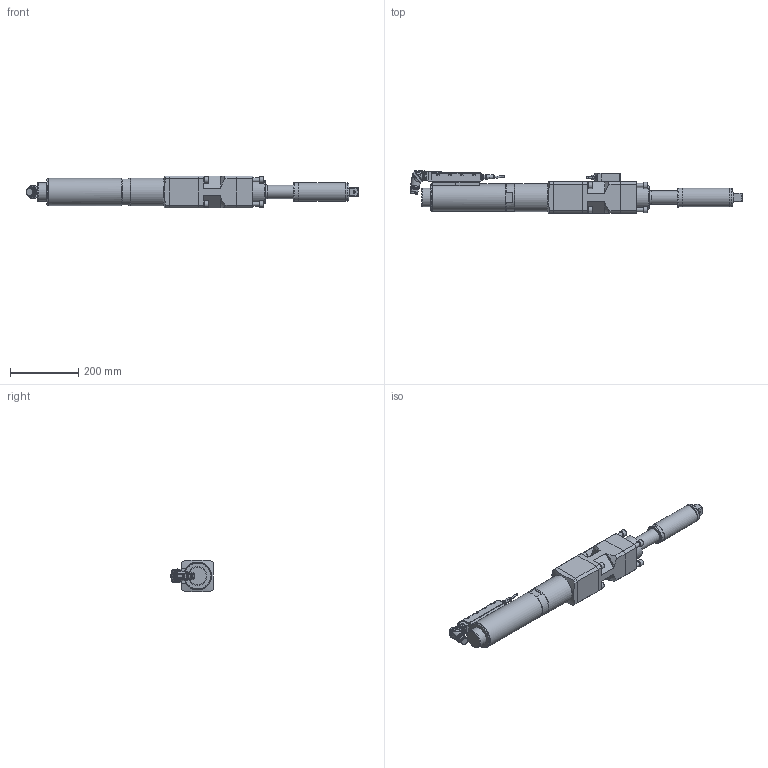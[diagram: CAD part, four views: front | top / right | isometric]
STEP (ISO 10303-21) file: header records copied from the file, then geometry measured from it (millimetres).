
FILE_DESCRIPTION (( 'STEP AP214' ), '1' );
FILE_NAME ('70082452_ESX5130DAX1300AZX580.STEP', '2016-11-14T11:09:37', ( 'admin' ), ( '' ), 'SwSTEP 2.0', 'SolidWorks 2014', '' );
FILE_SCHEMA (( 'AUTOMOTIVE_DESIGN' ));
Length unit declared in the file: millimetre
Products named in the file (11): 70082374; 70082347; 70082313_ESX5130_Standard_Winkel; 70082293_2; 70057493_Standard_winkel; 70057493_4; 70057493_3; 70057493_2; 70082313; 70082452_ESX5130DAX1300AZX580; 7002956_3
Assembly tree (10 placements, depth 4):
  70082452_ESX5130DAX1300AZX580
    70082313_ESX5130_Standard_Winkel
      70082313
      70057493_Standard_winkel
        70057493_2
        70057493_3
        70057493_4
      70082293_2
    70082347
    70082374
    7002956_3
Bounding box: 973.96 x 124.64 x 92 mm (x, y, z)
Volume: 4697437.2 mm3; surface area: 435024.1 mm2
Topology: 12 solids, 12 shells, 2299 faces, 5998 edges, 3892 vertices
Faces by surface type: plane 1152, cylinder 585, bspline 263, cone 229, torus 65, sphere 5
Full cylindrical faces by diameter (mm): 0.5 x7, 0.57 x14, 2 x3, 3 x4, 4.2 x9, 4.9 x3, 5 x8, 5.5 x12, 6 x2, 8.459 x2, 9.1 x1, 10.2 x8, 11 x1, 11.08 x1, 12 x12, 12.3 x1, 14 x2, 14.5 x2, 17.4 x1, 18 x12, 20 x1, 21.15 x1, 21.5 x1, 21.7 x1, 22.3 x1, 24.3 x1, 34 x3, 34.6 x2, 35.5 x1, 40 x1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
Entity records: 82833 total; most frequent: CARTESIAN_POINT 28308, ORIENTED_EDGE 11116, DIRECTION 9651, EDGE_CURVE 5558, VERTEX_POINT 3761, AXIS2_PLACEMENT_3D 3521, EDGE_LOOP 2787, LINE 2609
